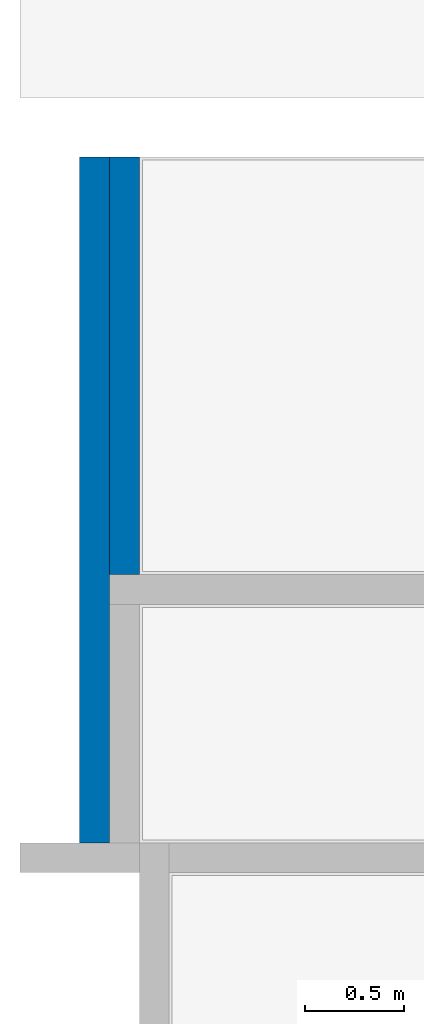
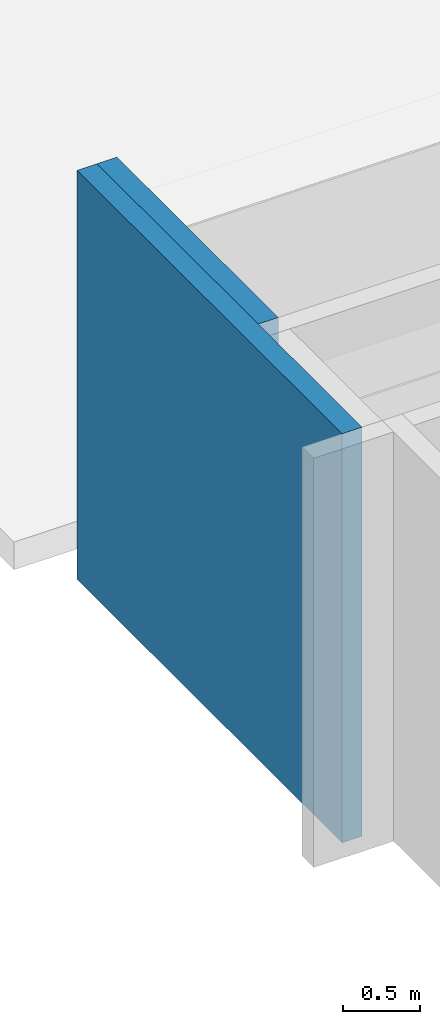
# One storey, part 13 of 21: 2 walls.
"""IFC4 building model written with IfcOpenShell, lengths in millimetres."""

from ifc_helpers import new_model, entity, si_unit, converted_unit, derived_unit, direction, frame, origin_with_axes, place, context, subcontext, project, spatial, polygons, material, constituent, constituent_set, type_object, element, save


model = new_model("IFC4")

# Units and contexts
model_context = context("Model", 3, precision=0.01, world=origin_with_axes(), true_north=direction((0.0, 1.0)))
body_context = subcontext(model_context, "Body", "Model", "MODEL_VIEW")
ifc_project = project(units=[si_unit("LENGTHUNIT", "METRE", prefix="MILLI"), si_unit("AREAUNIT", "SQUARE_METRE"), si_unit("VOLUMEUNIT", "CUBIC_METRE"), converted_unit("PLANEANGLEUNIT", "DEGREE", entity("IfcPlaneAngleMeasure", 0.0174532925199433), si_unit("PLANEANGLEUNIT", "RADIAN"), dimensions=[0, 0, 0, 0, 0, 0, 0]), converted_unit("TIMEUNIT", "Year", entity("IfcTimeMeasure", 31557600.0), si_unit("TIMEUNIT", "SECOND"), dimensions=[0, 0, 1, 0, 0, 0, 0]), si_unit("MASSUNIT", "GRAM", prefix="KILO"), si_unit("THERMODYNAMICTEMPERATUREUNIT", "DEGREE_CELSIUS"), si_unit("LUMINOUSINTENSITYUNIT", "LUMEN"), si_unit("ENERGYUNIT", "JOULE", prefix="MEGA"), derived_unit("THERMALCONDUCTANCEUNIT", [(si_unit("POWERUNIT", "WATT"), 1), (si_unit("LENGTHUNIT", "METRE"), -1), (si_unit("THERMODYNAMICTEMPERATUREUNIT", "KELVIN"), -1)]), derived_unit("SPECIFICHEATCAPACITYUNIT", [(si_unit("ENERGYUNIT", "JOULE"), 1), (si_unit("MASSUNIT", "GRAM", prefix="KILO"), -1), (si_unit("THERMODYNAMICTEMPERATUREUNIT", "KELVIN"), -1)]), derived_unit("MASSDENSITYUNIT", [(si_unit("MASSUNIT", "GRAM", prefix="KILO"), 1), (si_unit("VOLUMEUNIT", "CUBIC_METRE"), -1)])], contexts=[model_context])

# Site, building, storey
site_placement = place(None, origin_with_axes())
site = spatial("IfcSite", under=ifc_project, at=site_placement, Name="Exteriér", CompositionType="ELEMENT")
building_placement = place(site_placement, origin_with_axes())
building = spatial("IfcBuilding", under=site, at=building_placement, Name="Univerzitní lezecké centrum", CompositionType="ELEMENT")
storey_placement = place(building_placement, frame((0.0, 0.0, -3350.0), z_axis=(0.0, 0.0, 1.0), x_axis=(1.0, 0.0, 0.0)))
storey = spatial("IfcBuildingStorey", under=building, at=storey_placement, Name="1.PP", CompositionType="ELEMENT", Elevation=-3350.0)

# Walls
ifc_material_1 = material(Name="Keramická dlažba 20x40 - obklad")
ifc_constituent_1 = constituent(ifc_material_1, Name="Keramická dlažba 20x40 - obklad")
ifc_material_2 = material(Name="Lepicí tmel na dlažbu a obklady")
ifc_constituent_2 = constituent(ifc_material_2, Name="Lepicí tmel na dlažbu a obklady")
ifc_material_3 = material(Name="Sádrokarton - voděodolný")
ifc_constituent_3 = constituent(ifc_material_3, Name="Sádrokarton - voděodolný 1")
ifc_constituent_4 = constituent(ifc_material_3, Name="Sádrokarton - voděodolný 2")
ifc_material_4 = material(Name="SDK nosný rám")
ifc_constituent_5 = constituent(ifc_material_4, Name="SDK nosný rám")
ifc_constituent_set = constituent_set(constituents=[ifc_constituent_1, ifc_constituent_2, ifc_constituent_3, ifc_constituent_4, ifc_constituent_5], Name="SDK - instalační předstěna")
wall_type_1 = type_object("IfcWallType", Name="SDK - instalační předstěna 150", PredefinedType="NOTDEFINED")
wall_1_placement = place(storey_placement, frame((-5100.148351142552, 4400.000000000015, -100.000000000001), z_axis=(0.0, 0.0, 1.0), x_axis=(0.0, -1.0, 0.0)))
element("IfcWall", 1, at=wall_1_placement, inside=storey, type_object=wall_type_1, material=ifc_constituent_set, Name="St08", PredefinedType="NOTDEFINED", context=body_context, shape_type="Tessellation", body=[
    polygons([(2099.768147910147, 149.9999999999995, 100.0000000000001), (0.0, 150.0000000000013, 100.0000000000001), (0.0, 150.0000000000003, 3130.0), (2099.768147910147, 150.0000000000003, 3130.0), (0.0, 142.9999999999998, 100.0000000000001), (2099.767065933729, 142.9999999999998, 100.0000000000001), (0.0, 142.9999999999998, 3130.0), (2099.767065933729, 142.9999999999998, 3130.0)], [[[1, 2, 3, 4]], [[5, 2, 1, 6]], [[2, 5, 7, 3]], [[8, 4, 3, 7]], [[6, 1, 4, 8]], [[5, 6, 8, 7]]], closed=True),
    polygons([(2099.767065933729, 142.9999999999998, 90.0000000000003), (0.0, 143.0000000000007, 90.0000000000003), (0.0, 142.9999999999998, 3130.0), (2099.767065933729, 142.9999999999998, 3130.0), (0.0, 139.9999999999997, 90.0000000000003), (2099.766602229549, 139.9999999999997, 90.0000000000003), (0.0, 140.0000000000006, 3130.0), (2099.766602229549, 139.9999999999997, 3130.0)], [[[1, 2, 3, 4]], [[5, 2, 1, 6]], [[2, 5, 7, 3]], [[8, 4, 3, 7]], [[6, 1, 4, 8]], [[5, 6, 8, 7]]], closed=True),
    polygons([(2099.766602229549, 139.9999999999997, 87.00000000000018), (0.0, 139.9999999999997, 87.00000000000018), (0.0, 140.0000000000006, 3130.0), (2099.766602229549, 139.9999999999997, 3130.0), (0.0, 126.9999999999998, 87.00000000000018), (2099.76459284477, 126.9999999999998, 87.00000000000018), (0.0, 126.9999999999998, 3130.0), (2099.76459284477, 126.9999999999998, 3130.0)], [[[1, 2, 3, 4]], [[5, 2, 1, 6]], [[2, 5, 7, 3]], [[8, 4, 3, 7]], [[6, 1, 4, 8]], [[5, 6, 8, 7]]], closed=True),
    polygons([(2099.76459284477, 126.9999999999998, 87.00000000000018), (0.0, 126.9999999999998, 87.00000000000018), (0.0, 126.9999999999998, 3130.0), (2099.76459284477, 126.9999999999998, 3130.0), (0.0, 115.0000000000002, 87.00000000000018), (2099.762738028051, 114.9999999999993, 87.00000000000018), (0.0, 115.0000000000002, 3130.0), (2099.762738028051, 115.0000000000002, 3130.0)], [[[1, 2, 3, 4]], [[5, 2, 1, 6]], [[2, 5, 7, 3]], [[8, 4, 3, 7]], [[6, 1, 4, 8]], [[5, 6, 8, 7]]], closed=True),
    polygons([(2099.762738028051, 114.9999999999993, 80.99999999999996), (0.0, 115.0000000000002, 80.99999999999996), (0.0, 115.0000000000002, 3130.0), (2099.762738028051, 115.0000000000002, 3130.0), (0.0, 0.0, 80.99999999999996), (2099.744962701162, 0.0, 80.99999999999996), (0.0, 0.0, 3130.0), (2099.744962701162, 0.0, 3130.0)], [[[1, 2, 3, 4]], [[5, 2, 1, 6]], [[2, 5, 7, 3]], [[8, 4, 3, 7]], [[6, 1, 4, 8]], [[5, 6, 8, 7]]], closed=True),
])
ifc_material_5 = material(Name="Keramické tvárnice nenosné tl. 150 mm")
wall_type_2 = type_object("IfcWallType", Name="Keramické tvárnice nenosné tl. 150 mm 150", PredefinedType="NOTDEFINED")
wall_2_placement = place(storey_placement, frame((-5250.148351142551, 4700.000000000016, -220.0000000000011), z_axis=(0.0, 0.0, 1.0), x_axis=(0.0, -1.0, 0.0)))
element("IfcWall", 2, at=wall_2_placement, inside=storey, type_object=wall_type_2, material=ifc_material_5, Name="St08", PredefinedType="NOTDEFINED", context=body_context, shape_type="Tessellation", body=[
    polygons([(3750.000000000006, 0.0, 3250.0), (3750.000000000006, 150.0000000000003, 3250.0), (299.9999999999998, 150.0000000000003, 3250.0), (299.9999999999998, 0.0, 3250.0), (3750.000000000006, 0.0, 0.0), (3750.000000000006, 150.0000000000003, 0.0), (299.9999999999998, 150.0000000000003, 0.0), (299.9999999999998, 0.0, 0.0)], [[[1, 2, 3, 4]], [[2, 1, 5, 6]], [[2, 6, 7, 3]], [[8, 4, 3, 7]], [[5, 1, 4, 8]], [[6, 5, 8, 7]]], closed=True),
])

save(model, "model.ifc")
